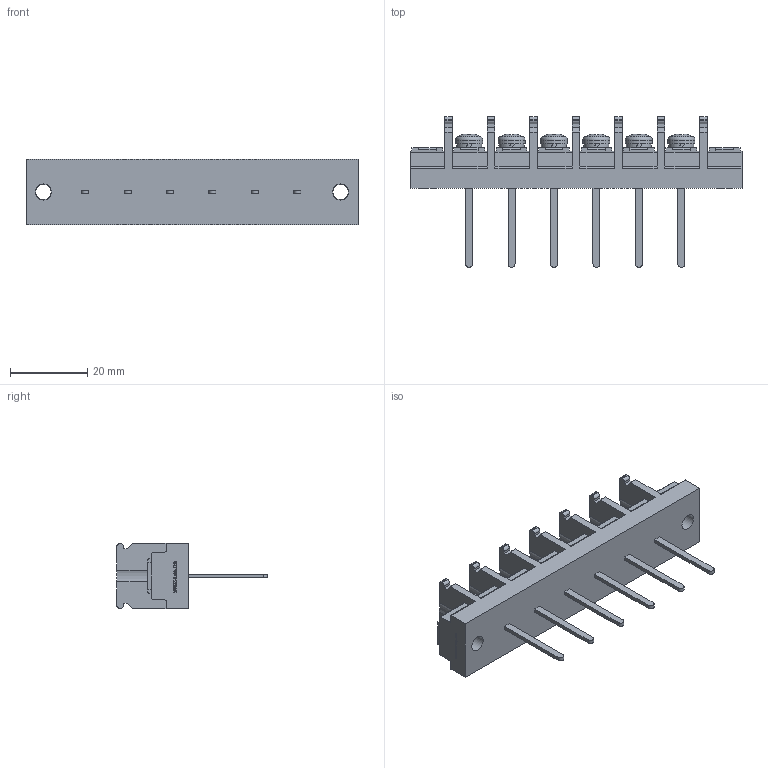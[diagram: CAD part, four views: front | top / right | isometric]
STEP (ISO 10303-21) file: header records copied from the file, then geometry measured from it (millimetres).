
FILE_DESCRIPTION(/* description */ ('Alibre Inc.'),/* implementation_level */ '2;1');
FILE_NAME(/* name */ 'export0',/* time_stamp */ '2015-10-20T07:55:28+09:00',/* author */ (''),/* organization */ (''),/* preprocessor_version */ 'ST-DEVELOPER v14',/* originating_system */ 'Alibre',/* authorisation */ '');
FILE_SCHEMA (('CONFIG_CONTROL_DESIGN'));
Length unit declared in the file: centimetre
Products named in the file (1): ID_1
Bounding box: 86 x 39 x 17 mm (x, y, z)
Volume: 15553.6 mm3; surface area: 9271.9 mm2
Topology: 1 solids, 1 shells, 894 faces, 2474 edges, 1644 vertices
Faces by surface type: plane 630, cylinder 118, bspline 104, cone 24, torus 12, sphere 6
Full cylindrical faces by diameter (mm): 4 x8, 4.2 x2, 6.5 x6, 7 x6
Entity records: 27659 total; most frequent: CARTESIAN_POINT 6050, ORIENTED_EDGE 4852, DIRECTION 3509, EDGE_CURVE 2426, VECTOR 1747, LINE 1747, VERTEX_POINT 1624, AXIS2_PLACEMENT_3D 1191
